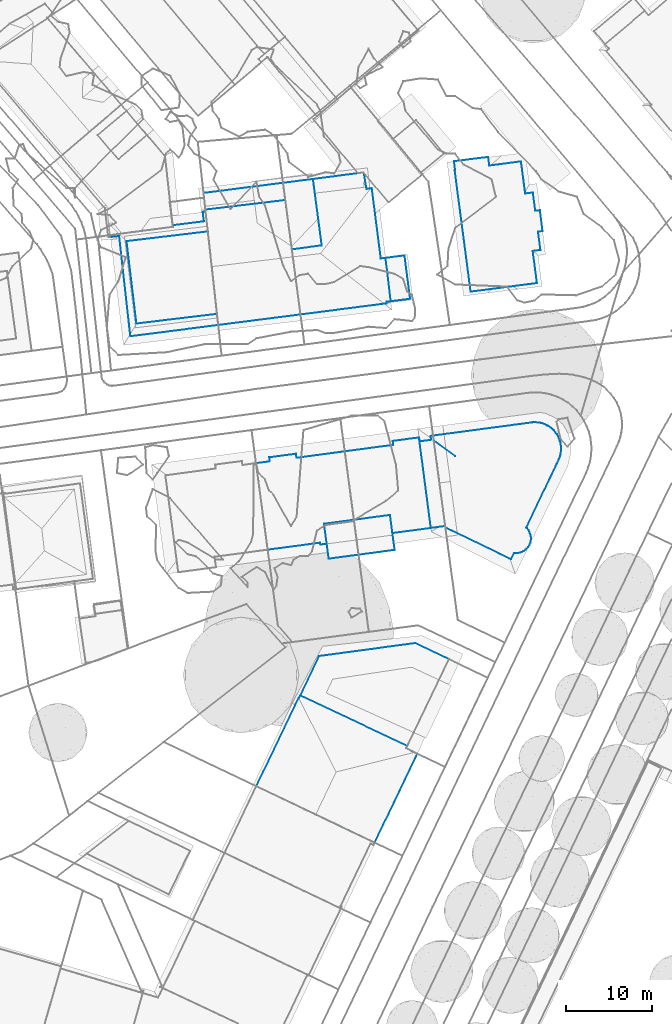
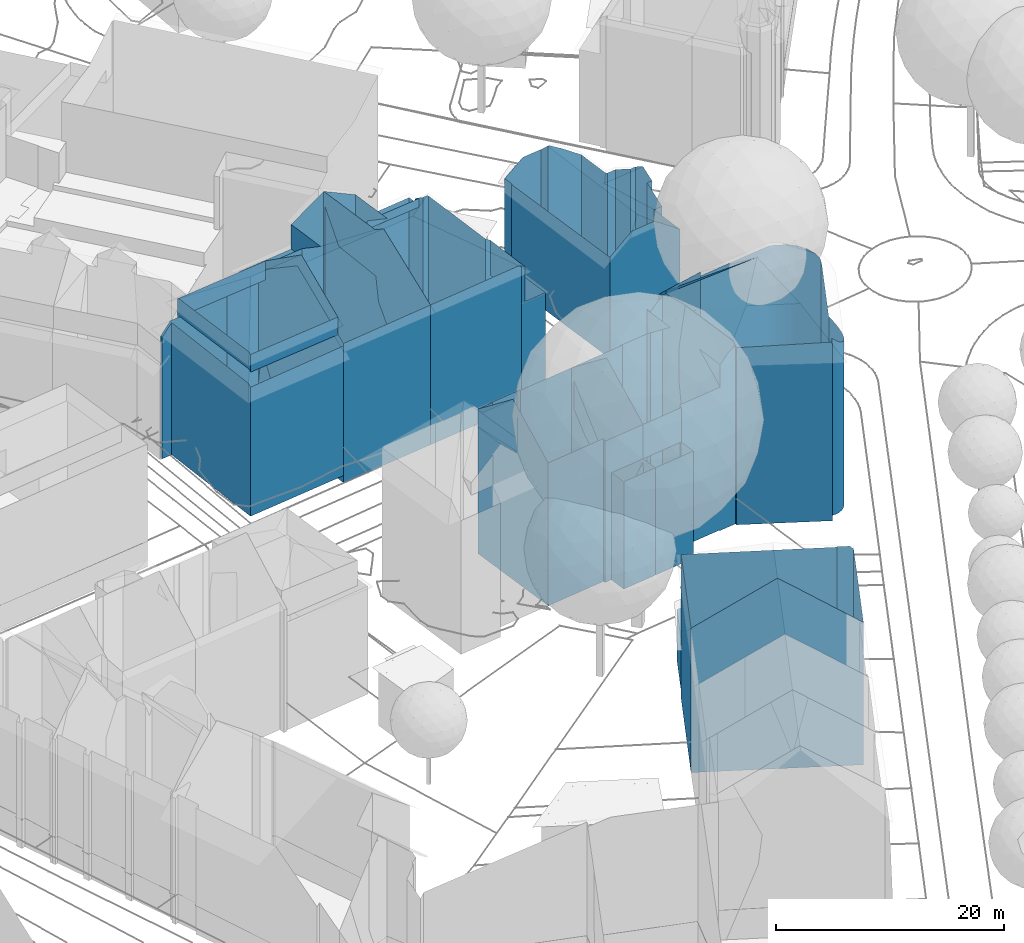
# Not in any storey, part 48 of 477: 8 walls.
"""IFC4 building model written with IfcOpenShell, lengths in metres."""

from ifc_helpers import new_model, si_unit, frame, origin_with_axes, place, context, subcontext, project, spatial, polygons, element, save


model = new_model("IFC4")

# Units and contexts
model_context = context("Model", 3, precision=1e-05, world=origin_with_axes())
body_context = subcontext(model_context, "Body", "Model", "MODEL_VIEW")
ifc_project = project(units=[si_unit("AREAUNIT", "SQUARE_METRE"), si_unit("LENGTHUNIT", "METRE")], contexts=[model_context])

# Sites, building
site_1_placement = place(None, origin_with_axes())
site_1 = spatial("IfcSite", under=ifc_project, at=site_1_placement, Name="Topoexport Site")
site_2_placement = place(site_1_placement, origin_with_axes())
site_2 = spatial("IfcSite", under=site_1, at=site_2_placement, Name="TPX_BUILDINGS")
building_1_placement = place(site_2_placement, frame((541.9047320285, 175.7068160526, 499.9965), z_axis=(0.0, 0.0, 1.0), x_axis=(1.0, 0.0, 0.0)))
building_1 = spatial("IfcBuilding", under=site_2, at=building_1_placement, Name="Building 34", CompositionType="ELEMENT")

# Wall
wall_1_placement = place(None, frame((541.9047320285, 175.7068160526, 499.9965), z_axis=(0.0, 0.0, 1.0), x_axis=(1.0, 0.0, 0.0)))
element("IfcWall", 1, at=wall_1_placement, inside=building_1, Name="Wall 0", context=body_context, shape_type="Tessellation", body=[
    polygons([(9.9579999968, -8.871100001, -0.078), (8.5829999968, 1.6055000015, 0.0), (9.9579999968, -8.871100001, 0.0), (10.2969999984, 1.2657000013, 19.0301), (9.9729999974, 1.5058999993, 19.0831), (10.2969999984, 1.2657000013, 19.3771), (5.557, -9.6728000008, 0.0), (5.5399999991, -9.6748000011, 11.4489), (5.557, -9.6728000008, 15.1295), (1.3649999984, -10.2342999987, 11.4489), (1.3649999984, -10.2342999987, 15.1295), (5.5289999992, -9.4618999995, 7.6502), (5.5289999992, -9.4618999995, 15.2995), (5.5289999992, -9.4618999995, 0.0), (5.6139999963, 0.7481000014, 0.0), (5.5539999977, 1.1992999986, 15.1265), (5.6139999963, 0.7481000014, 15.4735), (0.0, 0.0, 0.0), (2.8939999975, 0.3858000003, 0.0), (0.0, 0.0, 15.4715), (2.7019999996, 0.3603999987, 15.4725), (5.7719999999, -11.4081999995, -0.055), (1.5959999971, -11.9668000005, 11.4489), (5.7719999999, -11.4081999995, 11.4489), (5.231999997, -7.3680999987, -0.055), (5.5399999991, -9.6748000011, 0.0), (5.231999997, -7.3680999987, 0.0), (1.057, -7.9266999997, -0.055), (1.057, -7.9266999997, 0.0), (8.6169999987, 1.6114000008, -0.078), (8.6779999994, 1.1552999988, -0.078), (8.6779999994, 1.1552999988, 4.3766), (8.6169999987, 1.6114000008, 17.7373), (8.5829999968, 1.6055000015, 17.7033), (8.5829999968, 1.6055000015, 15.1245), (8.5829999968, 1.6055000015, 5.0415), (8.5829999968, 1.6055000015, -0.078), (9.0219999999, -1.7421000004, 17.7033), (9.9579999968, -8.871100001, 15.2985), (9.5659999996, -5.8876999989, 17.7033), (9.9579999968, -8.871100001, 17.7033), (10.0919999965, 1.808600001, 7.8812), (10.2219999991, 1.8262000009, 14.0706), (10.2219999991, 1.8262000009, 18.7872), (10.2219999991, 1.8262000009, 9.3541), (10.2219999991, 1.8262000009, -0.078), (9.9349999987, 1.7881000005, -0.078), (7.2769999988, 1.4307000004, 8.9801), (5.5539999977, 1.1992999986, 0.0), (7.068, 1.4023999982, 0.0), (7.8509999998, 1.5078999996, 3.7796), (9.2049999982, 1.2256000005, -0.078), (9.9959999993, 1.3321000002, -0.078), (8.6779999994, 1.1552999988, 17.7383), (9.2049999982, 1.2256000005, 18.2712), (9.9959999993, 1.3321000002, 15.4745), (9.9959999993, 1.3321000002, 18.8192), (9.9729999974, 1.5058999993, 18.7972), (9.9349999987, 1.7881000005, 18.7872), (9.9349999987, 1.7881000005, 9.3541), (9.9729999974, 1.5058999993, -0.078), (0.6689999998, -5.0166000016, 0.0), (1.5959999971, -11.9668000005, -0.055), (0.6689999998, -5.0166000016, 19.3361), (10.8699999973, -8.7490000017, 18.6262), (11.6259999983, -8.6484000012, 19.0791), (11.6259999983, -8.6484000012, 15.2985), (11.6259999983, -8.6484000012, -0.078), (11.5799999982, -8.308600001, -0.078), (10.6679999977, -1.5029000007, 19.3701), (11.5799999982, -8.308600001, 19.3891)], [[[3, 2, 1]], [[6, 5, 4]], [[9, 8, 7]], [[8, 11, 10]], [[11, 8, 9]], [[13, 9, 12]], [[9, 7, 12]], [[12, 7, 14]], [[17, 16, 15]], [[20, 19, 18]], [[21, 17, 19]], [[15, 19, 17]], [[24, 23, 22]], [[27, 26, 25]], [[25, 26, 22]], [[22, 26, 8]], [[8, 24, 22]], [[29, 27, 28]], [[32, 31, 30]], [[35, 34, 33]], [[35, 30, 36]], [[2, 36, 30]], [[37, 2, 30]], [[35, 33, 30]], [[34, 35, 38]], [[41, 40, 39]], [[44, 43, 42]], [[46, 42, 45]], [[42, 46, 47]], [[49, 16, 48]], [[50, 49, 48]], [[48, 16, 35]], [[51, 48, 36]], [[51, 2, 50]], [[2, 51, 36]], [[36, 48, 35]], [[51, 50, 48]], [[31, 32, 52]], [[53, 52, 32]], [[32, 54, 53]], [[56, 54, 55]], [[56, 55, 57]], [[54, 56, 53]], [[5, 59, 58]], [[57, 58, 56]], [[56, 58, 59]], [[60, 53, 56]], [[53, 60, 61]], [[60, 56, 59]], [[61, 60, 47]], [[29, 10, 62]], [[23, 10, 63]], [[63, 29, 28]], [[29, 63, 10]], [[10, 11, 64]], [[62, 20, 18]], [[62, 10, 20]], [[10, 64, 20]], [[67, 66, 65]], [[67, 41, 39]], [[41, 67, 65]], [[67, 39, 12]], [[13, 12, 39]], [[12, 3, 68]], [[3, 12, 14]], [[1, 68, 3]], [[12, 68, 67]], [[69, 46, 45]], [[69, 67, 68]], [[69, 45, 67]], [[43, 44, 4]], [[4, 44, 6]], [[43, 4, 70]], [[43, 67, 45]], [[43, 70, 67]], [[71, 66, 67]], [[70, 71, 67]], [[2, 37, 1]], [[5, 58, 4]], [[8, 26, 7]], [[16, 49, 15]], [[20, 21, 19]], [[23, 63, 22]], [[27, 25, 28]], [[30, 33, 54]], [[54, 32, 30]], [[59, 44, 42]], [[60, 59, 42]], [[42, 47, 60]], [[43, 45, 42]]]),
])

# Building
building_2_placement = place(site_2_placement, frame((531.628732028, 174.3367160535, 499.9965), z_axis=(0.0, 0.0, 1.0), x_axis=(1.0, 0.0, 0.0)))
building_2 = spatial("IfcBuilding", under=site_2, at=building_2_placement, Name="Building 35", CompositionType="ELEMENT")

# Wall
wall_2_placement = place(None, frame((531.628732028, 174.3367160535, 499.9965), z_axis=(0.0, 0.0, 1.0), x_axis=(1.0, 0.0, 0.0)))
element("IfcWall", 2, at=wall_2_placement, inside=building_2, Name="Wall 0", context=body_context, shape_type="Tessellation", body=[
    polygons([(11.6409999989, -8.8641999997, 11.4489), (10.0089999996, -9.0820000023, 15.1295), (11.6409999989, -8.8641999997, 15.1295), (9.9089999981, -9.0956999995, 11.4489), (8.1779999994, -9.3271000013, 11.4489), (8.1779999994, -9.3271000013, 0.0), (7.4489999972, -9.4248000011, 0.0), (7.4489999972, -9.4248000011, 15.1295), (3.7159999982, -9.7030999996, 15.3045), (7.4199999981, -9.2099000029, 15.3035), (7.4199999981, -9.2099000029, 0.0), (4.117999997, -9.6504000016, 0.0), (1.3530000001, -10.0175999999, 15.3055), (1.3530000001, -10.0175999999, 11.4789), (1.3530000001, -10.0175999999, 0.0), (4.6229999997, 1.0898999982, 15.1115), (1.5299999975, 0.6777999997, 15.1095), (1.5299999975, 0.6777999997, 0.0), (1.5920000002, 0.2118999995, 0.0), (1.5920000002, 0.2118999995, 15.4685), (0.0, 0.0, 0.0), (0.8459999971, 0.1132999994, 5.3175), (0.0, 0.0, 7.7342), (0.6109999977, 0.0810999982, 15.4685), (7.7699999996, 1.0361999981, 15.4705), (4.6849999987, 0.623999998, 15.4705), (10.2760000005, 1.370099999, 0.0), (10.2760000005, 1.370099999, 11.6039), (10.2760000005, 1.370099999, 15.4715), (4.6229999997, 1.0898999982, 0.0), (11.8719999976, -10.5967000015, -0.055), (8.4100000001, -11.0595999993, 11.4489), (11.8719999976, -10.5967000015, 11.4489), (7.868999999, -7.0195000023, -0.055), (11.3330000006, -6.5566000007, -0.055), (7.868999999, -7.0195000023, 0.0), (8.4100000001, -11.0595999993, -0.055), (0.6779999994, -5.0175999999, 0.0), (0.0, 0.0, 15.4685), (0.6779999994, -5.0175999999, 19.3361), (11.3330000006, -6.5566000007, 0.0), (10.9450000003, -3.6465000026, 19.3361), (4.6849999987, 0.623999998, 0.0)], [[[3, 2, 1]], [[1, 2, 4]], [[7, 6, 5]], [[2, 5, 4]], [[2, 8, 5]], [[7, 5, 8]], [[11, 10, 9]], [[9, 12, 11]], [[14, 9, 13]], [[15, 9, 14]], [[10, 11, 8]], [[8, 11, 7]], [[18, 17, 16]], [[20, 18, 19]], [[23, 22, 21]], [[21, 22, 19]], [[20, 19, 24]], [[24, 19, 22]], [[27, 26, 25]], [[29, 28, 25]], [[16, 26, 30]], [[33, 32, 31]], [[36, 35, 34]], [[32, 5, 6]], [[37, 32, 6]], [[6, 36, 34]], [[6, 34, 37]], [[38, 15, 23]], [[15, 14, 39]], [[40, 39, 14]], [[21, 38, 23]], [[23, 15, 39]], [[40, 14, 13]], [[27, 28, 41]], [[35, 41, 31]], [[28, 31, 41]], [[1, 29, 42]], [[31, 1, 33]], [[1, 31, 29]], [[1, 42, 3]], [[29, 31, 28]], [[12, 9, 15]], [[16, 30, 18]], [[17, 18, 20]], [[23, 39, 24]], [[24, 22, 23]], [[43, 26, 27]], [[28, 27, 25]], [[26, 43, 30]], [[32, 37, 31]], [[41, 35, 36]]]),
])

# Building
building_3_placement = place(site_2_placement, frame((552.1267320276, 177.5330160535, 499.9185), z_axis=(0.0, 0.0, 1.0), x_axis=(1.0, 0.0, 0.0)))
building_3 = spatial("IfcBuilding", under=site_2, at=building_3_placement, Name="Building 37", CompositionType="ELEMENT")

# Wall
wall_3_placement = place(None, frame((552.1267320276, 177.5330160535, 499.9185), z_axis=(0.0, 0.0, 1.0), x_axis=(1.0, 0.0, 0.0)))
element("IfcWall", 3, at=wall_3_placement, inside=building_3, Name="Wall 0", context=body_context, shape_type="Tessellation", body=[
    polygons([(0.0789999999, -0.5859000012, 19.1081), (0.0789999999, -0.5859000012, 19.4551), (6.5009999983, -5.4297000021, 23.7087), (13.0519999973, -5.8867000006, 0.0), (10.7780000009, -10.629900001, 0.0), (12.3239999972, -7.4053000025, 19.0331), (10.7780000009, -10.629900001, 19.0161), (13.612999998, -4.7178000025, 4.7565), (13.5289999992, -4.8916000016, 19.0471), (13.8939999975, -4.129900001, 8.3332), (14.1779999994, -3.5381000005, 0.0), (14.175999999, -3.5419999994, 19.0551), (11.2609999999, -12.3641999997, -0.0001), (11.2609999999, -12.3641999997, 17.8052), (11.2949999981, -12.2226000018, -0.0001), (11.2949999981, -12.2226000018, 17.8372), (11.3269999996, -11.933600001, 0.0), (11.3269999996, -11.933600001, 17.9362), (11.3239999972, -11.7871000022, 0.0), (11.3239999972, -11.7871000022, 18.0042), (11.2819999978, -11.4990000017, 18.1702), (11.2819999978, -11.4990000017, 0.0), (11.1919999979, -11.2236000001, 18.3742), (10.879999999, -10.7344000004, 0.0), (11.057, -10.9648000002, 0.0), (10.879999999, -10.7344000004, 18.8761), (10.2159999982, -13.5029000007, 18.2542), (10.2159999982, -13.5029000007, -0.0001), (10.0779999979, -13.5479000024, 18.3602), (10.0779999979, -13.5478000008, -0.0001), (10.4780000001, -13.3769000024, -0.0001), (10.4780000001, -13.3769000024, 18.0702), (10.7159999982, -13.2080000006, 17.9282), (10.7159999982, -13.2080000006, -0.0001), (10.8229999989, -13.1103000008, 17.8742), (10.8229999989, -13.1103000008, -0.0001), (11.0109999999, -12.8877000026, 17.8012), (11.0109999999, -12.8877000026, -0.0001), (11.1559999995, -12.6357000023, 17.7812), (11.1559999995, -12.6357000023, -0.0001), (8.9100000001, -14.2705000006, 9.534), (9.0099999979, -14.3183000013, 18.9921), (9.0099999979, -14.3183000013, -0.0001), (8.8770000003, -14.2539000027, 11.1659), (8.8770000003, -14.2539000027, 19.1421), (8.8770000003, -14.2539000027, -0.0001), (9.3559999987, -13.5976000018, 18.9971), (9.3559999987, -13.5976000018, -0.0001), (9.5009999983, -13.6123000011, -0.0001), (9.5009999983, -13.6123000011, 18.8581), (9.7919999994, -13.6055000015, 18.5952), (9.7919999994, -13.6053999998, -0.0001), (14.3029999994, -3.2763999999, 18.9531), (14.2989999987, -3.2842000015, 0.0), (14.5260000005, -2.8115000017, 18.8461), (14.5260000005, -2.8115000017, 0.0), (14.6259999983, -2.5742000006, 18.8042), (14.6259999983, -2.5742000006, 0.0), (14.7049999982, -2.3280999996, 18.7812), (14.7049999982, -2.3291000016, 0.0), (14.7399999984, -2.1816000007, 0.0), (14.7410000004, -2.1757999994, 18.7802), (2.5260000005, -2.3779000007, 21.6739), (2.5260000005, -2.3779000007, 0.0), (1.4279999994, -10.6562000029, 0.0), (2.254999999, -11.0566000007, 18.9901), (2.2459999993, -11.0516999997, 0.0), (1.3579999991, -10.134800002, 19.4671), (1.4279999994, -10.6562000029, 18.9911), (0.4459999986, -3.3291000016, 19.4481), (0.4459999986, -3.3291000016, 0.0), (13.2019999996, 1.1807000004, 0.0), (13.1380000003, 1.2157999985, 18.7172), (13.1369999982, 1.2157999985, 0.0), (13.2100000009, 1.1757999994, 18.7232), (12.8869999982, 1.3280999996, 18.7182), (12.8869999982, 1.3280999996, 0.0), (12.6279999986, 1.4169999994, 0.0), (12.4059999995, 1.4706999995, 18.7692), (12.3609999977, 1.4814999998, 18.7762), (12.5350000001, 1.4393999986, 9.4391), (12.6279999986, 1.4169999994, 18.7372), (12.3609999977, 1.4814999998, 0.0), (11.5439999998, 1.5312999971, 0.0), (11.818, 1.5399999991, 0.0), (11.6449999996, 1.5351999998, 18.8722), (11.2719999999, 1.498999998, 0.0), (11.5439999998, 1.5312999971, 18.8622), (11.2719999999, 1.498999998, 18.8612), (9.6290000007, 1.2793000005, 0.0), (9.6009999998, 1.2763999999, 18.8722), (12.1109999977, 1.5194999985, 18.8252), (12.0910999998, 1.5224999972, 18.8252), (12.0910999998, 1.5224999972, 0.0), (11.818, 1.5399999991, 18.8462), (13.3759999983, 1.0830000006, 0.0), (13.8129999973, 0.753899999, 0.0), (13.6019999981, 0.927699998, 18.7002), (13.6019999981, 0.927699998, 0.0), (13.9589999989, 0.6083999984, 4.6735), (14.0079999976, 0.5605999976, 18.7092), (13.9419999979, 0.6259999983, 18.7042), (14.0079999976, 0.5605999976, 0.0), (5.9250000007, 0.7881000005, 0.0), (0.0, 0.0, 18.8652), (0.0, 0.0, 0.0), (6.1319999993, 0.8145000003, 18.8702), (0.0789999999, -0.563500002, 0.0), (0.0789999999, -0.563500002, 19.4551), (14.1840000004, 0.3525999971, 0.0), (14.0859999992, 0.4696999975, 18.6932), (14.5729999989, -0.3144000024, 0.0), (14.4619999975, -0.0810000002, 18.6492), (14.4619999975, -0.0811000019, 0.0), (14.3330000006, 0.1405999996, 0.0), (14.3330000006, 0.1405999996, 18.6522), (14.1849999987, 0.3515999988, 18.6712), (14.7819999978, -1.0516999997, 0.0), (14.754999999, -0.9141000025, 18.6462), (14.7509999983, -0.8905999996, 0.0), (14.7339999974, -0.8027000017, 18.6382), (14.7339999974, -0.8027999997, 0.0), (14.6629999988, -0.5547000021, 18.6372), (14.6629999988, -0.5547000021, 0.0), (14.5729999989, -0.313500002, 18.6512), (14.5469999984, -0.2597000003, 18.6592), (14.8039999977, -1.259800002, 0.0), (14.8029999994, -1.25, 18.7212), (14.7509999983, -2.1289000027, 18.7692), (14.7630000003, -2.0780999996, 18.7582), (14.7630999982, -2.0780999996, 0.0), (14.7760000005, -1.9891999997, 18.7452), (14.8000000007, -1.8242000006, 18.7252), (14.8099999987, -1.3104999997, 18.7162), (14.8000000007, -1.8242000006, 0.0), (14.8159999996, -1.567400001, 0.0), (14.8159999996, -1.567400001, 18.7112), (11.1919999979, -11.2236000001, 0.0), (11.057, -10.9648000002, 18.6122), (0.0789999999, -0.5859000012, 0.0), (13.3759999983, 1.0830000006, 18.7102), (13.8129999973, 0.753899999, 18.6952), (14.7740000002, -1.009800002, 18.6542), (14.7819999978, -1.0548, 18.6642), (14.8099999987, -1.3104999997, 0.0)], [[[3, 2, 1]], [[6, 5, 4]], [[7, 5, 6]], [[10, 9, 8]], [[12, 10, 11]], [[11, 10, 8]], [[9, 6, 4]], [[8, 4, 11]], [[15, 14, 13]], [[15, 16, 14]], [[18, 16, 17]], [[16, 15, 17]], [[20, 18, 19]], [[22, 21, 20]], [[23, 21, 22]], [[26, 25, 24]], [[5, 26, 24]], [[29, 28, 27]], [[28, 29, 30]], [[31, 27, 28]], [[31, 32, 27]], [[32, 34, 33]], [[32, 31, 34]], [[36, 35, 33]], [[33, 34, 36]], [[37, 35, 36]], [[38, 37, 36]], [[40, 39, 37]], [[43, 42, 41]], [[45, 44, 42]], [[42, 44, 41]], [[41, 44, 43]], [[44, 46, 43]], [[48, 47, 42]], [[43, 48, 42]], [[50, 48, 49]], [[48, 50, 47]], [[52, 51, 50]], [[50, 49, 52]], [[30, 29, 51]], [[51, 52, 30]], [[12, 54, 53]], [[56, 55, 53]], [[56, 53, 54]], [[58, 57, 56]], [[57, 55, 56]], [[60, 59, 57]], [[60, 57, 58]], [[61, 59, 60]], [[61, 62, 59]], [[1, 2, 63]], [[64, 1, 63]], [[67, 66, 65]], [[65, 69, 68]], [[66, 44, 45]], [[46, 44, 66]], [[66, 67, 46]], [[68, 70, 65]], [[70, 1, 71]], [[74, 73, 72]], [[75, 72, 73]], [[73, 74, 76]], [[76, 74, 77]], [[78, 76, 77]], [[81, 80, 79]], [[81, 79, 82]], [[82, 78, 81]], [[81, 78, 83]], [[86, 85, 84]], [[89, 88, 87]], [[91, 89, 90]], [[89, 87, 90]], [[94, 93, 92]], [[95, 94, 85]], [[86, 95, 85]], [[75, 96, 72]], [[99, 98, 97]], [[102, 101, 100]], [[97, 100, 103]], [[101, 103, 100]], [[106, 105, 104]], [[107, 90, 104]], [[109, 106, 108]], [[105, 106, 109]], [[63, 109, 64]], [[111, 110, 103]], [[114, 113, 112]], [[116, 113, 115]], [[115, 113, 114]], [[117, 116, 110]], [[116, 115, 110]], [[111, 117, 110]], [[120, 119, 118]], [[121, 119, 120]], [[122, 121, 120]], [[124, 123, 122]], [[112, 125, 123]], [[123, 124, 112]], [[125, 112, 126]], [[128, 127, 118]], [[131, 130, 129]], [[129, 61, 131]], [[131, 133, 132]], [[127, 128, 134]], [[133, 131, 135]], [[137, 135, 136]], [[9, 4, 8]], [[12, 9, 10]], [[14, 40, 13]], [[39, 40, 14]], [[18, 17, 19]], [[20, 19, 22]], [[23, 22, 138]], [[139, 138, 25]], [[23, 138, 139]], [[139, 25, 26]], [[7, 26, 5]], [[37, 38, 40]], [[54, 12, 11]], [[140, 1, 64]], [[66, 69, 65]], [[70, 71, 65]], [[1, 140, 71]], [[92, 83, 94]], [[92, 80, 83]], [[82, 76, 78]], [[83, 80, 81]], [[84, 88, 86]], [[87, 88, 84]], [[93, 94, 95]], [[141, 98, 96]], [[141, 96, 75]], [[142, 97, 98]], [[98, 99, 96]], [[142, 102, 97]], [[97, 102, 100]], [[105, 107, 104]], [[91, 90, 107]], [[109, 108, 64]], [[111, 103, 101]], [[113, 126, 112]], [[118, 119, 143]], [[123, 121, 122]], [[144, 118, 143]], [[144, 128, 118]], [[62, 61, 129]], [[130, 131, 132]], [[137, 145, 134]], [[137, 136, 145]], [[134, 145, 127]], [[133, 135, 137]]]),
])

# Building
building_4_placement = place(site_2_placement, frame((525.5527320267, 205.6209160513, 499.3996), z_axis=(0.0, 0.0, 1.0), x_axis=(1.0, 0.0, 0.0)))
building_4 = spatial("IfcBuilding", under=site_2, at=building_4_placement, Name="Building 81", CompositionType="ELEMENT")

# Wall
wall_4_placement = place(None, frame((525.5527320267, 205.6209160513, 499.3996), z_axis=(0.0, 0.0, 1.0), x_axis=(1.0, 0.0, 0.0)))
element("IfcWall", 4, at=wall_4_placement, inside=building_4, Name="Wall 0", context=body_context, shape_type="Tessellation", body=[
    polygons([(9.4659999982, -0.8192999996, 0.0), (0.2149999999, -1.9267999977, 0.0), (9.4659999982, -0.8192999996, 0.0048), (11.2259999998, -14.0683999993, 5.6204), (6.5430000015, -14.6679999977, 14.9545), (11.2259999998, -14.0683999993, 14.9795), (11.2259999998, -14.0683999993, 0.005), (1.7030000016, -15.2881000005, 0.005), (1.7030000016, -15.2881000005, 7.4413), (0.1700000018, -1.5302999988, 13.9587), (5.8520000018, -0.8506000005, 14.8806), (0.1700000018, -1.5302999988, 14.8796), (5.6440000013, 0.7178000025, 13.9586), (5.6440000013, 0.7178000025, 16.5954), (6.2019999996, -3.4872999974, 16.5954), (5.8520000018, -0.8506000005, 13.9586), (0.0, 0.0, 13.9587), (0.0, 0.0, 0.0), (9.2019999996, 1.1709000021, 0.0), (9.2019999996, 1.1709000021, 18.6182), (0.9470000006, -8.5067999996, 0.005), (1.7030000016, -15.2881000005, 11.1849), (0.9470000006, -8.5067999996, 19.4071), (1.7030000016, -15.2881000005, 14.9285), (0.2149999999, -1.9267999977, 0.005), (10.1770000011, -6.1688999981, 18.6182), (10.3379999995, -7.3817999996, 0.005), (10.3379999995, -7.3817999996, 19.4071)], [[[3, 2, 1]], [[6, 5, 4]], [[7, 4, 5]], [[7, 5, 8]], [[9, 8, 5]], [[12, 11, 10]], [[11, 14, 13]], [[14, 11, 15]], [[11, 13, 16]], [[18, 17, 13]], [[13, 20, 19]], [[20, 13, 14]], [[13, 19, 18]], [[10, 21, 9]], [[22, 10, 9]], [[8, 9, 21]], [[22, 24, 23]], [[23, 12, 10]], [[10, 25, 21]], [[2, 25, 18]], [[18, 25, 10]], [[10, 17, 18]], [[22, 23, 10]], [[27, 20, 26]], [[3, 20, 27]], [[19, 3, 1]], [[3, 19, 20]], [[6, 26, 28]], [[6, 4, 26]], [[26, 4, 27]], [[27, 4, 7]], [[25, 2, 3]], [[24, 22, 5]], [[22, 9, 5]], [[11, 16, 10]]]),
])

# Building
building_5_placement = place(site_2_placement, frame((514.7257320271, 200.7361160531, 500.1685), z_axis=(0.0, 0.0, 1.0), x_axis=(1.0, 0.0, 0.0)))
building_5 = spatial("IfcBuilding", under=site_2, at=building_5_placement, Name="Building 82", CompositionType="ELEMENT")

# Wall
wall_5_placement = place(None, frame((514.7257320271, 200.7361160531, 500.1685), z_axis=(0.0, 0.0, 1.0), x_axis=(1.0, 0.0, 0.0)))
element("IfcWall", 5, at=wall_5_placement, inside=building_5, Name="Wall 0", context=body_context, shape_type="Tessellation", body=[
    polygons([(10.8610000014, 1.5976999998, 0.0), (10.7399999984, 2.6855999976, 13.0248), (10.8610000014, 1.5976999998, 13.9717), (10.7399999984, 2.6855999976, 0.0), (7.2529999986, 1.1455000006, 13.9887), (7.2529999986, 1.1455000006, 0.0), (7.2769999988, 0.9580000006, 0.0), (11.3220000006, 0.4316000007, 0.0), (1.9140000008, -0.6953000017, 0.053), (11.3220000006, 0.4316000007, 0.053), (11.068, 2.7245999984, 13.0248), (11.068, 2.7245999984, 0.0), (1.0610000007, -0.1093000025, 10.625), (0.0269999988, -0.2246000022, 13.0248), (1.0610000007, -0.1093000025, 14.1677), (1.0610000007, -0.1093000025, 0.0), (0.0269999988, -0.2246000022, 0.0), (1.9140000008, -0.6953000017, 0.0001), (3.057, -10.2334000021, 0.0531), (0.0, 0.0, 13.0248), (0.0, 0.0, 0.0), (6.5789999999, -11.1669999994, 0.0), (9.5249999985, -10.7890000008, 13.8787), (12.5300000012, -10.4033000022, 3.4757), (12.5300000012, -10.4033000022, 10.425), (12.5300000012, -10.4033000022, 13.9007), (12.5300000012, -10.4033000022, 6.9503), (12.5300000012, -10.4033000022, 0.0), (2.3530000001, -11.7098999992, 10.349), (2.3530000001, -11.7098999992, 3.3997), (2.3530000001, -11.7098999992, 0.0), (3.057, -10.2334000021, 0.0), (12.3869999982, -9.1162, 0.053), (12.436999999, -9.5692999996, 16.5144), (2.9349999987, -10.7070000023, 14.6266), (2.9349999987, -10.7070000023, 16.5144), (12.436999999, -9.5692999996, 14.6266), (1.0760000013, 0.1415999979, 0.0), (1.0760000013, 0.1415999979, 14.2167), (7.2769999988, 0.9580000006, 14.1527), (1.0610000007, -0.1093000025, 3.5417), (2.3220000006, -11.4365000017, 0.0), (2.3220000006, -11.4365000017, 14.0637), (2.3530000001, -11.7098999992, 13.8247), (2.9069999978, -10.4774999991, 16.6704), (2.9069999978, -10.4774999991, 14.8266), (1.686999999, -0.4686999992, 14.8036), (1.6429999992, -0.1112999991, 16.5214), (1.6660000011, -0.2987999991, 16.6514), (1.6429999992, -0.1112999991, 14.4916), (2.2760000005, -0.0361000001, 14.4926), (2.2760000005, -0.0361000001, 16.5224), (5.5920000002, 0.3603999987, 14.4926), (11.254999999, 1.0410999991, 16.5214), (5.5920000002, 0.3603999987, 16.5224), (11.254999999, 1.0410000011, 14.4916), (11.8409999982, -4.2168000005, 0.053), (12.3869999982, -9.1162, 0.0), (11.8409999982, -4.2168000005, 20.1511)], [[[3, 2, 1]], [[1, 2, 4]], [[1, 5, 3]], [[6, 5, 1]], [[7, 5, 6]], [[10, 9, 8]], [[12, 2, 11]], [[12, 4, 2]], [[15, 14, 13]], [[14, 17, 16]], [[9, 19, 18]], [[21, 14, 20]], [[21, 17, 14]], [[24, 23, 22]], [[26, 23, 25]], [[25, 23, 27]], [[24, 22, 28]], [[30, 22, 29]], [[30, 31, 22]], [[19, 33, 32]], [[36, 35, 34]], [[34, 35, 37]], [[20, 39, 38]], [[38, 21, 20]], [[39, 7, 38]], [[40, 7, 39]], [[41, 30, 29]], [[31, 30, 42]], [[41, 42, 30]], [[29, 44, 43]], [[43, 15, 13]], [[13, 41, 29]], [[16, 42, 41]], [[43, 13, 29]], [[36, 45, 35]], [[46, 35, 45]], [[49, 48, 47]], [[47, 46, 45]], [[50, 47, 48]], [[47, 45, 49]], [[48, 52, 51]], [[51, 50, 48]], [[52, 53, 51]], [[55, 54, 53]], [[56, 53, 54]], [[55, 53, 52]], [[12, 10, 8]], [[10, 12, 11]], [[24, 33, 11]], [[10, 11, 57]], [[11, 56, 24]], [[58, 33, 28]], [[24, 28, 33]], [[57, 11, 33]], [[56, 54, 27]], [[59, 34, 37]], [[56, 27, 24]], [[25, 37, 26]], [[27, 54, 25]], [[37, 25, 59]], [[54, 59, 25]], [[7, 40, 5]], [[9, 18, 8]], [[41, 13, 14]], [[14, 16, 41]], [[19, 32, 18]], [[44, 22, 23]], [[24, 27, 23]], [[44, 29, 22]], [[33, 58, 32]]]),
])

# Building
building_6_placement = place(site_2_placement, frame((534.7547320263, 206.7918160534, 499.1526), z_axis=(0.0, 0.0, 1.0), x_axis=(1.0, 0.0, 0.0)))
building_6 = spatial("IfcBuilding", under=site_2, at=building_6_placement, Name="Building 84", CompositionType="ELEMENT")

# Wall
wall_6_placement = place(None, frame((534.7547320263, 206.7918160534, 499.1526), z_axis=(0.0, 0.0, 1.0), x_axis=(1.0, 0.0, 0.0)))
element("IfcWall", 6, at=wall_6_placement, inside=building_6, Name="Wall 0", context=body_context, shape_type="Tessellation", body=[
    polygons([(11.8640000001, -8.6875, 0.252), (12.4660000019, -13.7118999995, 0.7669), (11.8640000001, -8.6875, 0.7669), (10.2719999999, -0.6240000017, 0.252), (11.3170000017, -8.7578000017, 0.252), (10.2719999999, -0.6240000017, 3.9806), (10.5329999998, -2.6581999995, 15.1555), (11.3170000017, -8.7578000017, 9.5271), (11.9840000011, -13.9561000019, 11.3809), (11.9690000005, -13.8388999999, 9.5271), (11.9840000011, -13.9561000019, 7.6712), (11.9609999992, -13.7773000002, 0.252), (11.9840000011, -13.9561000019, 0.252), (11.9840000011, -13.9561000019, 3.9606), (9.3029999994, 0.0742000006, 14.2056), (9.5300000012, 0.1006000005, 14.2056), (9.3029999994, 0.0742000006, 14.7566), (9.3709999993, -0.4979999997, 14.2056), (9.3709999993, -0.4979999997, 15.1275), (3.6799999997, -1.1797000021, 14.2056), (3.6799999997, -1.1797000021, 15.1276), (1.0230000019, -7.7012000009, 0.252), (4.4849999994, -7.2412, 0.252), (4.4849999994, -7.2412, 0.0), (1.0230000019, -7.7012000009, 0.0), (3.4640000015, 0.4452999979, 0.0), (3.6799999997, -1.1797000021, 0.252), (3.4640000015, 0.4452999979, 0.247), (3.7320000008, -1.5742000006, 0.249), (3.4640000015, 0.4452999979, 17.0344), (3.4640000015, 0.4452999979, 14.2056), (4.069000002, -4.1104000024, 17.0344), (14.0639999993, -8.4043000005, 0.7669), (14.7080000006, -13.4238000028, 11.0119), (14.0639999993, -8.4043000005, 11.0119), (11.8640000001, -8.6875, 11.0119), (12.4660000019, -13.7118999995, 14.7566), (11.8640000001, -8.6875, 14.7566), (11.6950000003, -13.9932000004, 15.2835), (11.9840000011, -13.9561000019, 15.0915), (2.0240000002, -15.2393000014, 0.252), (2.0240000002, -15.2393000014, 15.2265), (11.6950000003, -13.9932000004, 0.252), (11.9609999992, -13.7773000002, 6.7443), (14.7080000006, -13.4238000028, 0.7669), (12.4660000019, -13.7118999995, 0.252), (11.9609999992, -13.7773000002, 15.0925), (12.4660000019, -13.7118999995, 11.0119), (9.6669999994, -0.7021000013, 15.2815), (10.2719999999, -0.6240000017, 15.1665), (10.1030000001, -0.6465000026, 15.2795), (9.6669999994, -0.7021000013, 0.252), (10.0350000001, -0.6553000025, 0.252), (0.9750000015, -7.3398000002, 18.8652), (1.1359999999, -8.5527000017, 19.6541), (0.0, 0.0, 14.2056), (0.0, 0.0, 18.8652), (0.0, 0.0, 0.0), (9.3420000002, 1.2011999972, 0.247), (9.5300000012, 0.1006000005, 0.252), (9.3420000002, 1.2011999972, 14.2056), (9.5300000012, 0.1006000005, 14.7566), (11.3170000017, -8.7578000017, 15.1205)], [[[3, 2, 1]], [[6, 5, 4]], [[5, 6, 7]], [[5, 7, 8]], [[11, 10, 9]], [[10, 11, 12]], [[14, 13, 12]], [[17, 16, 15]], [[19, 17, 18]], [[21, 19, 20]], [[24, 23, 22]], [[22, 25, 24]], [[28, 27, 26]], [[26, 27, 29]], [[23, 24, 29]], [[31, 30, 21]], [[32, 21, 30]], [[21, 20, 31]], [[35, 34, 33]], [[38, 37, 36]], [[9, 40, 39]], [[41, 14, 11]], [[11, 9, 42]], [[41, 11, 42]], [[13, 14, 43]], [[43, 14, 41]], [[9, 39, 42]], [[45, 44, 2]], [[44, 45, 34]], [[46, 2, 12]], [[12, 2, 44]], [[44, 37, 47]], [[48, 44, 34]], [[44, 48, 37]], [[51, 50, 49]], [[50, 6, 52]], [[53, 52, 6]], [[4, 53, 6]], [[50, 52, 49]], [[22, 42, 54]], [[22, 41, 42]], [[54, 42, 55]], [[54, 57, 56]], [[54, 56, 22]], [[58, 22, 56]], [[58, 25, 22]], [[60, 59, 49]], [[49, 52, 60]], [[16, 59, 61]], [[16, 49, 59]], [[49, 16, 62]], [[57, 30, 31]], [[58, 56, 28]], [[31, 56, 57]], [[59, 56, 31]], [[59, 28, 56]], [[58, 28, 26]], [[31, 61, 59]], [[8, 63, 38]], [[5, 8, 3]], [[38, 36, 8]], [[35, 33, 36]], [[1, 5, 3]], [[3, 8, 36]], [[2, 46, 1]], [[6, 50, 7]], [[63, 8, 7]], [[47, 10, 44]], [[47, 40, 10]], [[10, 12, 44]], [[10, 40, 9]], [[11, 14, 12]], [[62, 16, 17]], [[17, 15, 18]], [[19, 18, 20]], [[24, 26, 29]], [[34, 45, 33]], [[37, 48, 36]], [[33, 3, 36]]]),
])

# Building
building_7_placement = place(site_2_placement, frame((554.542732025, 209.2947160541, 500.1665), z_axis=(0.0, 0.0, 1.0), x_axis=(1.0, 0.0, 0.0)))
building_7 = spatial("IfcBuilding", under=site_2, at=building_7_placement, Name="Building 88", CompositionType="ELEMENT")

# Wall
wall_7_placement = place(None, frame((554.542732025, 209.2947160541, 500.1665), z_axis=(0.0, 0.0, 1.0), x_axis=(1.0, 0.0, 0.0)))
element("IfcWall", 7, at=wall_7_placement, inside=building_7, Name="Wall 0", context=body_context, shape_type="Tessellation", body=[
    polygons([(6.8150000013, -14.4687000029, 0.0), (7.3540000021, -14.3994000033, 12.2188), (7.3859999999, -14.3955000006, 0.0), (5.0860000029, -0.371100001, 2.7037), (4.9910000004, -0.3838, 12.6318), (4.0899999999, -0.5019000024, 0.0), (5.6160000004, -0.3017000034, 12.2178), (5.8390000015, -0.2734000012, 0.0), (5.5360000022, -14.6338, 0.0), (6.768000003, -14.4746000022, 12.6068), (4.376000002, -14.7842000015, 12.5938), (4.3740000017, -14.7842000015, 0.0), (7.7590000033, -0.0215000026, 0.0), (7.9680000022, -1.6181000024, 10.623), (7.7590000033, -0.0215000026, 10.632), (8.0240000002, -2.0400000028, 0.0), (7.9079999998, -1.1601000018, 4.4786), (8.2140000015, -3.4931000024, 10.613), (8.2149999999, -3.5039000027, 0.0), (4.1570000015, -14.813500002, 8.6111), (3.9120000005, -14.8447000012, 12.2858), (3.8100000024, -14.8584000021, 0.0), (3.9600000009, 0.4882999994, 12.2188), (3.9600000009, 0.4882999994, 0.0), (4.0899999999, -0.5019000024, 13.1537), (1.949000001, 0.2402999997, 0.0), (1.949000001, 0.2402999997, 12.2188), (4.2050000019, -0.4873000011, 13.1537), (2.9970000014, -14.9629000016, 11.6169), (2.870000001, -14.9795000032, 2.3587), (1.9290000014, -15.1006000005, 0.0), (1.9290000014, -15.1006000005, 10.8279), (0.0, 0.0, 10.779), (0.0, 0.0, 0.0), (0.1340000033, -1.0215000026, 0.0), (0.1340000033, -1.0215000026, 10.785), (0.0840000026, -1.0273000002, 10.748), (0.0840000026, -1.0273000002, 0.0), (0.8530000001, -6.8906000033, 0.0), (10.0100000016, -10.2734000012, 10.537), (9.1190000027, -10.3896000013, 0.0), (9.1740000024, -10.3828000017, 10.533), (10.0100000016, -10.2734000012, 0.0), (9.7320000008, -8.1513000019, 0.0), (9.7320000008, -8.1513000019, 11.8568), (10.251000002, -8.0830000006, 0.0), (10.251000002, -8.0830000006, 11.8598), (9.9539999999, -5.6728000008, 0.0), (10.0930000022, -6.8008000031, 12.6568), (9.4160000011, -5.7441000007, 0.0), (9.7170000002, -5.7041000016, 11.9968), (9.4160000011, -5.7441000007, 11.9978), (9.1380000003, -3.6220000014, 10.7529), (9.1380000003, -3.6220000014, 0.0), (8.2460000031, -3.7392000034, 10.7569), (8.2460000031, -3.7392000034, 0.0), (9.9539999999, -5.6728000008, 11.9958), (9.6060000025, -14.1084000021, 0.0), (9.6060000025, -14.1084000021, 10.553), (9.1190000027, -10.3896000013, 10.574)], [[[3, 2, 1]], [[6, 5, 4]], [[5, 7, 4]], [[7, 8, 4]], [[4, 8, 6]], [[1, 10, 9]], [[11, 9, 10]], [[11, 12, 9]], [[15, 14, 13]], [[17, 16, 13]], [[17, 18, 16]], [[18, 19, 16]], [[7, 15, 8]], [[15, 13, 8]], [[12, 11, 20]], [[11, 21, 20]], [[21, 22, 20]], [[20, 22, 12]], [[24, 23, 6]], [[25, 6, 23]], [[27, 24, 26]], [[6, 25, 28]], [[22, 21, 29]], [[22, 29, 30]], [[32, 31, 29]], [[30, 29, 31]], [[30, 31, 22]], [[34, 33, 27]], [[26, 34, 27]], [[36, 33, 35]], [[34, 35, 33]], [[38, 37, 35]], [[36, 35, 37]], [[31, 32, 37]], [[39, 31, 37]], [[38, 39, 37]], [[42, 41, 40]], [[40, 41, 43]], [[45, 43, 44]], [[45, 40, 43]], [[47, 44, 46]], [[49, 46, 48]], [[46, 49, 47]], [[52, 51, 50]], [[51, 48, 50]], [[54, 53, 52]], [[52, 50, 54]], [[56, 55, 53]], [[53, 54, 56]], [[55, 19, 18]], [[55, 56, 19]], [[48, 57, 49]], [[59, 2, 58]], [[3, 58, 2]], [[41, 60, 59]], [[58, 41, 59]], [[1, 2, 10]], [[18, 17, 14]], [[14, 17, 13]], [[23, 24, 27]], [[28, 5, 6]], [[45, 44, 47]], [[57, 48, 51]], [[60, 41, 42]]]),
])

# Building
building_8_placement = place(site_2_placement, frame((531.6427320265, 136.9305160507, 499.2035), z_axis=(0.0, 0.0, 1.0), x_axis=(1.0, 0.0, 0.0)))
building_8 = spatial("IfcBuilding", under=site_2, at=building_8_placement, Name="Building 123", CompositionType="ELEMENT")

# Wall
wall_8_placement = place(None, frame((531.6427320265, 136.9305160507, 499.2035), z_axis=(0.0, 0.0, 1.0), x_axis=(1.0, 0.0, 0.0)))
element("IfcWall", 8, at=wall_8_placement, inside=building_8, Name="Wall 0", context=body_context, shape_type="Tessellation", body=[
    polygons([(5.0969999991, 10.5166000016, 0.0), (17.4730000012, 4.6709000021, 0.363), (5.0969999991, 10.5166000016, 0.363), (18.4140000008, 16.5771000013, 0.363), (22.307, 14.7080000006, 5.7875), (18.4140000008, 16.5771000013, 5.7875), (7.2760000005, 15.0781000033, 0.363), (7.2760000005, 15.0781000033, 5.7875), (5.0969999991, 10.5166000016, 5.7875), (17.4730000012, 4.6709000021, 5.7874), (5.0969999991, 10.5166000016, 15.2036), (13.699000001, -6.5322999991, 15.2535), (18.6440000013, 3.7666000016, 15.2035), (18.6519999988, 3.7627000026, 5.7874), (13.699000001, -6.5322999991, 0.0), (18.6519999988, 3.7627000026, 0.363), (18.6440000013, 3.7666000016, 0.0), (4.936999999, 10.1816000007, 15.5105), (4.8920000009, 10.2031000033, 15.4775), (4.936999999, 10.1816000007, 3.8776), (4.8918000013, 10.2032000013, 0.0), (4.936999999, 10.1816000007, 0.0), (22.307, 14.7080000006, 0.363), (17.3390000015, 4.3935000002, 0.0), (17.4730000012, 4.6709000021, 0.0), (17.3390000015, 4.3935000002, 15.4615), (17.4730000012, 4.6709000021, 15.2035), (7.7740000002, -3.7070999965, 19.7491), (5.6290000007, -2.6835999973, 19.5221), (6.8680000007, -3.2743999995, 20.415), (0.0, 0.0, 15.4715), (5.6290000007, -2.6835999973, 0.0), (0.0, 0.0, 0.0), (6.9820000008, -3.3290999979, 0.0), (18.2939999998, 3.9345000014, 15.4675)], [[[3, 2, 1]], [[6, 5, 4]], [[8, 6, 7]], [[11, 10, 9]], [[14, 13, 12]], [[16, 14, 15]], [[16, 15, 17]], [[15, 14, 12]], [[20, 19, 18]], [[19, 22, 21]], [[23, 5, 2]], [[25, 2, 24]], [[5, 10, 2]], [[27, 26, 24]], [[10, 24, 2]], [[24, 10, 27]], [[30, 29, 28]], [[12, 28, 15]], [[15, 28, 29]], [[29, 31, 15]], [[31, 33, 32]], [[32, 34, 31]], [[31, 34, 15]], [[21, 33, 31]], [[21, 31, 19]], [[9, 18, 11]], [[18, 9, 20]], [[20, 8, 7]], [[8, 20, 9]], [[20, 7, 3]], [[22, 3, 1]], [[3, 22, 20]], [[17, 24, 14]], [[24, 26, 35]], [[35, 13, 14]], [[17, 14, 16]], [[14, 24, 35]], [[2, 25, 1]], [[5, 23, 4]], [[6, 4, 7]], [[27, 10, 11]], [[22, 19, 20]]]),
])

save(model, "model.ifc")
